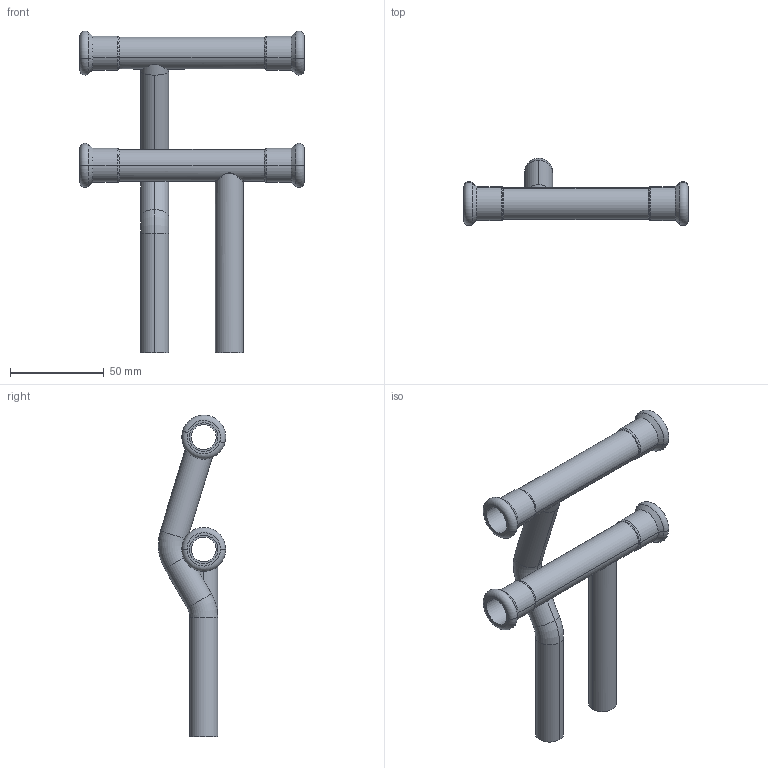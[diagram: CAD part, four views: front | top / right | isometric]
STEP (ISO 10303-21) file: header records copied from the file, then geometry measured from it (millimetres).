
FILE_DESCRIPTION(('CoCreate Modeling STEP Export'),'2;1');
FILE_NAME('C1437 15x15.stp','2015-08-13T 9:19:31',(''),(''),'CoCreate Modeling STEP processor for AP214 (Solid Model)','CoCreate Modeling 17.00A 17-Jun-2010 (C) Parametric Technology GmbH','');
FILE_SCHEMA(('AUTOMOTIVE_DESIGN { 1 0 10303 214 1 1 1 1 }'));
Length unit declared in the file: millimetre
Products named in the file (4): 620866.4.1; 620860.9.1.1; 620866.4.1.1; C1437-15x15
Assembly tree (3 placements, depth 2):
  C1437-15x15
    620866.4.1.1
    620860.9.1.1
    620866.4.1
Bounding box: 120 x 36.04 x 171.86 mm (x, y, z)
Volume: 37083.6 mm3; surface area: 46677.3 mm2
Topology: 3 solids, 3 shells, 110 faces, 240 edges, 146 vertices
Faces by surface type: cylinder 52, torus 24, cone 16, plane 16, bspline 2
Entity records: 6249 total; most frequent: CARTESIAN_POINT 4072, ORIENTED_EDGE 480, DIRECTION 376, EDGE_CURVE 240, AXIS2_PLACEMENT_3D 154, VERTEX_POINT 146, EDGE_LOOP 130, FACE_OUTER_BOUND 110
